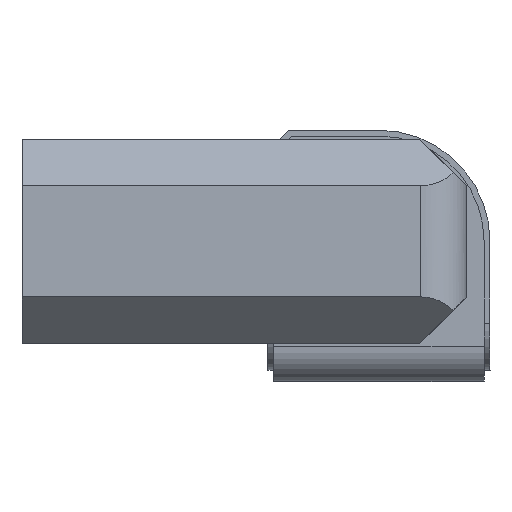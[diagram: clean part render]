
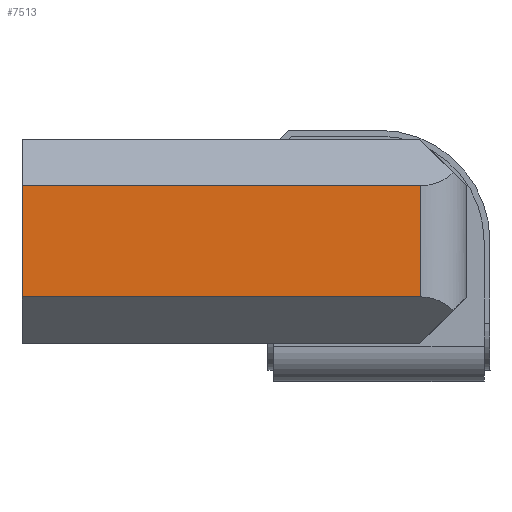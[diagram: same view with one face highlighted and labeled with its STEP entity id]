
A CAD part, front view. The second image highlights one B-rep face of the part: STEP entity #7513.
In plain terms, the highlighted planar face has unit normal (0.015, -1, 0) as drawn and (0, 0.014, -1) by its records, which use the part's own axes.
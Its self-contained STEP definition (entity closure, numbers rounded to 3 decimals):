
#716 = ORIENTED_EDGE ( 'NONE', *, *, #3620, .T. ) ;
#781 = EDGE_CURVE ( 'NONE', #928, #3400, #4711, .T. ) ;
#831 = ORIENTED_EDGE ( 'NONE', *, *, #781, .T. ) ;
#928 = VERTEX_POINT ( 'NONE', #5231 ) ;
#952 = EDGE_CURVE ( 'NONE', #1071, #928, #5305, .T. ) ;
#1000 = ORIENTED_EDGE ( 'NONE', *, *, #952, .T. ) ;
#1071 = VERTEX_POINT ( 'NONE', #5761 ) ;
#3400 = VERTEX_POINT ( 'NONE', #4250 ) ;
#3620 = EDGE_CURVE ( 'NONE', #3400, #4499, #4370, .T. ) ;
#4091 = FACE_OUTER_BOUND ( 'NONE', #7482, .T. ) ;
#4092 = PLANE ( 'NONE',  #4093 ) ;
#4093 = AXIS2_PLACEMENT_3D ( 'NONE', #4094, #4095, #4096 ) ;
#4094 = CARTESIAN_POINT ( 'NONE',  ( 8.75, -29., -63.5 ) ) ;
#4095 = DIRECTION ( 'NONE',  ( 0., -0.014, 1. ) ) ;
#4096 = DIRECTION ( 'NONE',  ( 0., -1., -0.014 ) ) ;
#4250 = CARTESIAN_POINT ( 'NONE',  ( 4.75, -29., -63.5 ) ) ;
#4370 = LINE ( 'NONE', #4371, #4376 ) ;
#4371 = CARTESIAN_POINT ( 'NONE',  ( 8.75, -29., -63.5 ) ) ;
#4376 = VECTOR ( 'NONE', #4377, 1000. ) ;
#4377 = DIRECTION ( 'NONE',  ( -1., 0., 0. ) ) ;
#4499 = VERTEX_POINT ( 'NONE', #4793 ) ;
#4711 = LINE ( 'NONE', #4712, #4713 ) ;
#4712 = CARTESIAN_POINT ( 'NONE',  ( 4.75, -29., -63.5 ) ) ;
#4713 = VECTOR ( 'NONE', #4714, 1000. ) ;
#4714 = DIRECTION ( 'NONE',  ( 0., -1., -0.014 ) ) ;
#4793 = CARTESIAN_POINT ( 'NONE',  ( -4.75, -29., -63.5 ) ) ;
#5231 = CARTESIAN_POINT ( 'NONE',  ( 4.75, 5.058, -63.007 ) ) ;
#5305 = LINE ( 'NONE', #5306, #5307 ) ;
#5306 = CARTESIAN_POINT ( 'NONE',  ( 8.75, 5.058, -63.007 ) ) ;
#5307 = VECTOR ( 'NONE', #5308, 1000. ) ;
#5308 = DIRECTION ( 'NONE',  ( 1., 0., 0. ) ) ;
#5761 = CARTESIAN_POINT ( 'NONE',  ( -4.75, 5.058, -63.007 ) ) ;
#5859 = LINE ( 'NONE', #5860, #5861 ) ;
#5860 = CARTESIAN_POINT ( 'NONE',  ( -4.75, -29., -63.5 ) ) ;
#5861 = VECTOR ( 'NONE', #5862, 1000. ) ;
#5862 = DIRECTION ( 'NONE',  ( 0., 1., 0.014 ) ) ;
#6735 = EDGE_CURVE ( 'NONE', #4499, #1071, #5859, .T. ) ;
#7104 = ORIENTED_EDGE ( 'NONE', *, *, #6735, .T. ) ;
#7482 = EDGE_LOOP ( 'NONE', ( #7104, #1000, #831, #716 ) ) ;
#7513 = ADVANCED_FACE ( 'NONE', ( #4091 ), #4092, .F. ) ;
